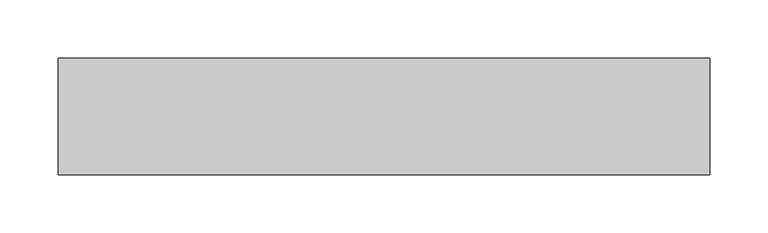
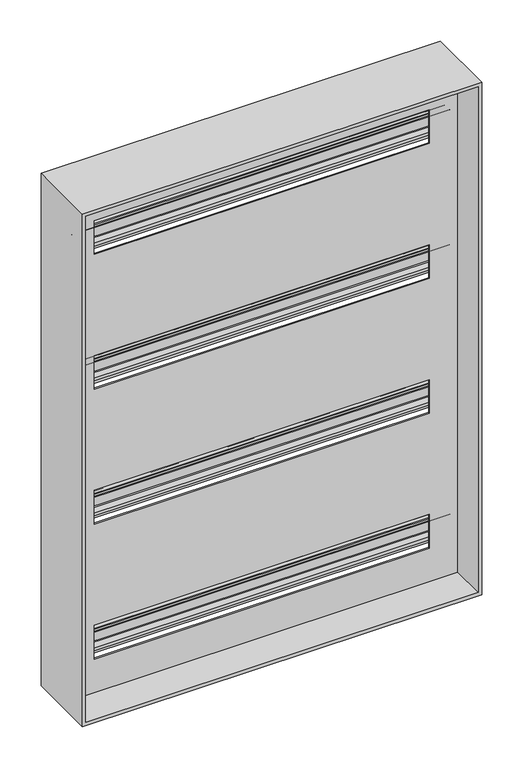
"""IFC4 building model written with IfcOpenShell, lengths in millimetres: electric distribution board geometry, DKC_Панель для модульного оборудования : DKC_Панель для модульного оборудования."""

from ifc_helpers import new_model, si_unit, frame, origin, place, context, project, spatial, polyline, circle_curve, faceted_brep, source, transform, mapped, element, save
from ifc_brep_helpers import plane_surface, cylinder_surface, revolved_surface, advanced_brep


def electric_distribution_board_496b80d3(model_context):
    return source(origin(), model_context, "Body", "SolidModel", [
        advanced_brep(
        [(-265.0, -86.5000007, 1362.0000024), (-265.0, -96.4963965, 1362.0000024), (-265.0, -98.9999996, 1364.4999998), (-265.0, -99.0, 1367.4999982), (-265.0, -97.5000007, 1367.4999982), (-265.0, -97.5000007, 1364.5), (-265.0, -96.4999987, 1363.4999998), (-265.0, -86.4969876, 1363.499998), (-265.0, -83.9999996, 1360.9999998), (-265.0, -83.9999996, 1338.9999994), (-265.0, -86.5039195, 1336.5000024), (-265.0, -96.4999996, 1336.5000024), (-265.0, -97.4999996, 1335.5000004), (-265.0, -97.5000007, 1332.5000018), (-265.0, -99.0, 1332.5000018), (-265.0, -99.0, 1335.4999994), (-265.0, -96.4974135, 1337.999998), (-265.0, -86.4999996, 1337.999998), (-265.0, -85.4999996, 1339.0000001), (-265.0, -85.4999987, 1360.9999998), (265.0, -86.5000007, 1361.9999998), (265.0, -85.4999996, 1360.9999998), (265.0, -85.4999987, 1339.0000001), (265.0, -86.4999996, 1337.9999994), (265.0, -96.4974135, 1337.999998), (265.0, -98.9999996, 1335.4999994), (265.0, -99.0, 1332.5000018), (265.0, -97.5000007, 1332.5000018), (265.0, -97.5000007, 1335.5000004), (265.0, -96.4999996, 1336.4999994), (265.0, -86.5039195, 1336.5000024), (265.0, -83.9999996, 1338.9999994), (265.0, -83.9999996, 1360.9999998), (265.0, -86.4969876, 1363.499998), (265.0, -96.4999987, 1363.499998), (265.0, -97.4999996, 1364.4999998), (265.0, -97.5000007, 1367.4999982), (265.0, -99.0, 1367.4999982), (265.0, -99.0, 1364.4999998), (265.0, -96.4963965, 1362.0000024)],
        [
            (0, 1),
            (1, 2, circle_curve(frame((-265.0, -96.4999996, 1364.4999998), z_axis=(-1.0, 0.0, 0.0), x_axis=(0.0, 0.0, -1.0)), 2.5)),
            (2, 3),
            (3, 4),
            (4, 5),
            (5, 6, circle_curve(frame((-265.0, -96.4999996, 1364.4999998), z_axis=(1.0, 0.0, 0.0), x_axis=(0.0, 0.0, -1.0)), 1.0)),
            (6, 7),
            (7, 8, circle_curve(frame((-265.0, -86.4999996, 1360.9999998), z_axis=(-1.0, 0.0, 0.0), x_axis=(0.0, 0.0, -1.0)), 2.5)),
            (8, 9),
            (9, 10, circle_curve(frame((-265.0, -86.4999996, 1338.9999994), z_axis=(-1.0, 0.0, 0.0), x_axis=(0.0, 0.0, -1.0)), 2.5)),
            (10, 11),
            (11, 12, circle_curve(frame((-265.0, -96.4999996, 1335.4999994), z_axis=(1.0, 0.0, 0.0), x_axis=(0.0, 0.0, -1.0)), 1.0)),
            (12, 13),
            (13, 14),
            (14, 15),
            (15, 16, circle_curve(frame((-265.0, -96.4999996, 1335.4999994), z_axis=(-1.0, 0.0, 0.0), x_axis=(0.0, 0.0, -1.0)), 2.5)),
            (16, 17),
            (17, 18, circle_curve(frame((-265.0, -86.4999996, 1338.9999994), z_axis=(1.0, 0.0, 0.0), x_axis=(0.0, 0.0, -1.0)), 1.0)),
            (18, 19),
            (19, 0, circle_curve(frame((-265.0, -86.4999996, 1360.9999998), z_axis=(1.0, 0.0, 0.0), x_axis=(0.0, 0.0, -1.0)), 1.0)),
            (20, 21, circle_curve(frame((265.0, -86.4999996, 1360.9999998), z_axis=(-1.0, 0.0, 0.0), x_axis=(0.0, 0.0, -1.0)), 1.0)),
            (21, 22),
            (22, 23, circle_curve(frame((265.0, -86.4999996, 1338.9999994), z_axis=(-1.0, 0.0, 0.0), x_axis=(0.0, 0.0, -1.0)), 1.0)),
            (23, 24),
            (24, 25, circle_curve(frame((265.0, -96.4999996, 1335.4999994), z_axis=(1.0, 0.0, 0.0), x_axis=(0.0, 0.0, -1.0)), 2.5)),
            (25, 26),
            (26, 27),
            (27, 28),
            (28, 29, circle_curve(frame((265.0, -96.4999996, 1335.4999994), z_axis=(-1.0, 0.0, 0.0), x_axis=(0.0, 0.0, -1.0)), 1.0)),
            (29, 30),
            (30, 31, circle_curve(frame((265.0, -86.4999996, 1338.9999994), z_axis=(1.0, 0.0, 0.0), x_axis=(0.0, 0.0, -1.0)), 2.5)),
            (31, 32),
            (32, 33, circle_curve(frame((265.0, -86.4999996, 1360.9999998), z_axis=(1.0, 0.0, 0.0), x_axis=(0.0, 0.0, -1.0)), 2.5)),
            (33, 34),
            (34, 35, circle_curve(frame((265.0, -96.4999996, 1364.4999998), z_axis=(-1.0, 0.0, 0.0), x_axis=(0.0, 0.0, -1.0)), 1.0)),
            (35, 36),
            (36, 37),
            (37, 38),
            (38, 39, circle_curve(frame((265.0, -96.4999996, 1364.4999998), z_axis=(1.0, 0.0, 0.0), x_axis=(0.0, 0.0, -1.0)), 2.5)),
            (39, 20),
            (0, 20),
            (39, 1),
            (38, 2),
            (37, 3),
            (36, 4),
            (35, 5),
            (34, 6),
            (33, 7),
            (32, 8),
            (31, 9),
            (30, 10),
            (29, 11),
            (28, 12),
            (27, 13),
            (26, 14),
            (25, 15),
            (24, 16),
            (23, 17),
            (22, 18),
            (21, 19),
        ],
        [
            plane_surface(frame((-265.0, -96.4963965, 1362.0000024), z_axis=(-1.0, 0.0, 0.0), x_axis=(0.0, -1.0, 0.0))),
            plane_surface(frame((265.0, -96.4963965, 1362.0000024), z_axis=(1.0, 0.0, 0.0), x_axis=(0.0, 1.0, 0.0))),
            plane_surface(frame((-265.0, -86.5000007, 1362.0000024), z_axis=(0.0, 0.0, -1.0), x_axis=(1.0, 0.0, 0.0))),
            cylinder_surface(frame((265.0, -96.4999996, 1364.4999998), z_axis=(-1.0, 0.0, 0.0), x_axis=(0.0, 0.0, -1.0)), 2.5),
            plane_surface(frame((-265.0, -99.0, 1364.4999998), z_axis=(0.0, -1.0, 0.0), x_axis=(1.0, 0.0, 0.0))),
            plane_surface(frame((-265.0, -99.0, 1367.4999982), z_axis=(0.0, 0.0, 1.0), x_axis=(1.0, 0.0, 0.0))),
            plane_surface(frame((-265.0, -97.5000007, 1367.4999982), z_axis=(0.0, 1.0, 0.0), x_axis=(1.0, 0.0, 0.0))),
            revolved_surface(polyline([(265.0, -96.4999996, 1363.4999998), (-265.0, -96.4999996, 1363.4999998)]), (265.0, -96.4999996, 1364.4999998), (1.0, 0.0, 0.0)),
            plane_surface(frame((-265.0, -96.4999987, 1363.499998), z_axis=(0.0, 0.0, 1.0), x_axis=(1.0, 0.0, 0.0))),
            cylinder_surface(frame((265.0, -86.4999996, 1360.9999998), z_axis=(-1.0, 0.0, 0.0), x_axis=(0.0, 0.0, -1.0)), 2.5),
            plane_surface(frame((-265.0, -83.9999996, 1360.9999998), z_axis=(0.0, 1.0, 0.0), x_axis=(1.0, 0.0, 0.0))),
            cylinder_surface(frame((265.0, -86.4999996, 1338.9999994), z_axis=(-1.0, 0.0, 0.0), x_axis=(0.0, 0.0, -1.0)), 2.5),
            plane_surface(frame((-265.0, -86.5039195, 1336.5000024), z_axis=(0.0, 0.0, -1.0), x_axis=(1.0, 0.0, 0.0))),
            revolved_surface(polyline([(265.0, -96.4999996, 1334.4999994), (-265.0, -96.4999996, 1334.4999994)]), (265.0, -96.4999996, 1335.4999994), (1.0, 0.0, 0.0)),
            plane_surface(frame((-265.0, -97.5000007, 1335.5000004), z_axis=(0.0, 1.0, 0.0), x_axis=(1.0, 0.0, 0.0))),
            plane_surface(frame((-265.0, -97.5000007, 1332.5000018), z_axis=(0.0, 0.0, -1.0), x_axis=(1.0, 0.0, 0.0))),
            plane_surface(frame((-265.0, -99.0, 1332.5000018), z_axis=(0.0, -1.0, 0.0), x_axis=(1.0, 0.0, 0.0))),
            cylinder_surface(frame((265.0, -96.4999996, 1335.4999994), z_axis=(-1.0, 0.0, 0.0), x_axis=(0.0, 0.0, -1.0)), 2.5),
            plane_surface(frame((-265.0, -96.4974135, 1337.999998), z_axis=(0.0, 0.0, 1.0), x_axis=(1.0, 0.0, 0.0))),
            revolved_surface(polyline([(265.0, -86.4999996, 1337.9999994), (-265.0, -86.4999996, 1337.9999994)]), (265.0, -86.4999996, 1338.9999994), (1.0, 0.0, 0.0)),
            plane_surface(frame((-265.0, -85.4999987, 1339.0000001), z_axis=(0.0, -1.0, 0.0), x_axis=(1.0, 0.0, 0.0))),
            revolved_surface(polyline([(265.0, -86.4999996, 1359.9999998), (-265.0, -86.4999996, 1359.9999998)]), (265.0, -86.4999996, 1360.9999998), (1.0, 0.0, 0.0)),
        ],
        [
            (0, [[1, 2, 3, 4, 5, 6, 7, 8, 9, 10, 11, 12, 13, 14, 15, 16, 17, 18, 19, 20]]),
            (1, [[21, 22, 23, 24, 25, 26, 27, 28, 29, 30, 31, 32, 33, 34, 35, 36, 37, 38, 39, 40]]),
            (2, [[-1, 41, -40, 42]]),
            (3, [[-2, -42, -39, 43]]),
            (4, [[-3, -43, -38, 44]]),
            (5, [[-4, -44, -37, 45]]),
            (6, [[-5, -45, -36, 46]]),
            (7, [[-6, -46, -35, 47]]),
            (8, [[-7, -47, -34, 48]]),
            (9, [[-8, -48, -33, 49]]),
            (10, [[-9, -49, -32, 50]]),
            (11, [[-10, -50, -31, 51]]),
            (12, [[-11, -51, -30, 52]]),
            (13, [[-12, -52, -29, 53]]),
            (14, [[-13, -53, -28, 54]]),
            (15, [[-14, -54, -27, 55]]),
            (16, [[-15, -55, -26, 56]]),
            (17, [[-16, -56, -25, 57]]),
            (18, [[-17, -57, -24, 58]]),
            (19, [[-18, -58, -23, 59]]),
            (20, [[-19, -59, -22, 60]]),
            (21, [[-20, -60, -21, -41]]),
        ],
    ),
        advanced_brep(
        [(-265.0, -86.5000007, 1162.0000024), (-265.0, -96.4963965, 1162.0000024), (-265.0, -98.9999996, 1164.4999998), (-265.0, -99.0, 1167.4999982), (-265.0, -97.5000007, 1167.4999982), (-265.0, -97.5000007, 1164.5), (-265.0, -96.4999987, 1163.4999998), (-265.0, -86.4969876, 1163.499998), (-265.0, -83.9999996, 1160.9999998), (-265.0, -83.9999996, 1138.9999994), (-265.0, -86.5039195, 1136.5000024), (-265.0, -96.4999996, 1136.5000024), (-265.0, -97.4999996, 1135.5000004), (-265.0, -97.5000007, 1132.5000018), (-265.0, -99.0, 1132.5000018), (-265.0, -99.0, 1135.4999994), (-265.0, -96.4974135, 1137.999998), (-265.0, -86.4999996, 1137.999998), (-265.0, -85.4999996, 1139.0000001), (-265.0, -85.4999987, 1160.9999998), (265.0, -86.5000007, 1161.9999998), (265.0, -85.4999996, 1160.9999998), (265.0, -85.4999987, 1139.0000001), (265.0, -86.4999996, 1137.9999994), (265.0, -96.4974135, 1137.999998), (265.0, -98.9999996, 1135.4999994), (265.0, -99.0, 1132.5000018), (265.0, -97.5000007, 1132.5000018), (265.0, -97.5000007, 1135.5000004), (265.0, -96.4999996, 1136.4999994), (265.0, -86.5039195, 1136.5000024), (265.0, -83.9999996, 1138.9999994), (265.0, -83.9999996, 1160.9999998), (265.0, -86.4969876, 1163.499998), (265.0, -96.4999987, 1163.499998), (265.0, -97.4999996, 1164.4999998), (265.0, -97.5000007, 1167.4999982), (265.0, -99.0, 1167.4999982), (265.0, -99.0, 1164.4999998), (265.0, -96.4963965, 1162.0000024)],
        [
            (0, 1),
            (1, 2, circle_curve(frame((-265.0, -96.4999996, 1164.4999998), z_axis=(-1.0, 0.0, 0.0), x_axis=(0.0, 0.0, -1.0)), 2.5)),
            (2, 3),
            (3, 4),
            (4, 5),
            (5, 6, circle_curve(frame((-265.0, -96.4999996, 1164.4999998), z_axis=(1.0, 0.0, 0.0), x_axis=(0.0, 0.0, -1.0)), 1.0)),
            (6, 7),
            (7, 8, circle_curve(frame((-265.0, -86.4999996, 1160.9999998), z_axis=(-1.0, 0.0, 0.0), x_axis=(0.0, 0.0, -1.0)), 2.5)),
            (8, 9),
            (9, 10, circle_curve(frame((-265.0, -86.4999996, 1138.9999994), z_axis=(-1.0, 0.0, 0.0), x_axis=(0.0, 0.0, -1.0)), 2.5)),
            (10, 11),
            (11, 12, circle_curve(frame((-265.0, -96.4999996, 1135.4999994), z_axis=(1.0, 0.0, 0.0), x_axis=(0.0, 0.0, -1.0)), 1.0)),
            (12, 13),
            (13, 14),
            (14, 15),
            (15, 16, circle_curve(frame((-265.0, -96.4999996, 1135.4999994), z_axis=(-1.0, 0.0, 0.0), x_axis=(0.0, 0.0, -1.0)), 2.5)),
            (16, 17),
            (17, 18, circle_curve(frame((-265.0, -86.4999996, 1138.9999994), z_axis=(1.0, 0.0, 0.0), x_axis=(0.0, 0.0, -1.0)), 1.0)),
            (18, 19),
            (19, 0, circle_curve(frame((-265.0, -86.4999996, 1160.9999998), z_axis=(1.0, 0.0, 0.0), x_axis=(0.0, 0.0, -1.0)), 1.0)),
            (20, 21, circle_curve(frame((265.0, -86.4999996, 1160.9999998), z_axis=(-1.0, 0.0, 0.0), x_axis=(0.0, 0.0, -1.0)), 1.0)),
            (21, 22),
            (22, 23, circle_curve(frame((265.0, -86.4999996, 1138.9999994), z_axis=(-1.0, 0.0, 0.0), x_axis=(0.0, 0.0, -1.0)), 1.0)),
            (23, 24),
            (24, 25, circle_curve(frame((265.0, -96.4999996, 1135.4999994), z_axis=(1.0, 0.0, 0.0), x_axis=(0.0, 0.0, -1.0)), 2.5)),
            (25, 26),
            (26, 27),
            (27, 28),
            (28, 29, circle_curve(frame((265.0, -96.4999996, 1135.4999994), z_axis=(-1.0, 0.0, 0.0), x_axis=(0.0, 0.0, -1.0)), 1.0)),
            (29, 30),
            (30, 31, circle_curve(frame((265.0, -86.4999996, 1138.9999994), z_axis=(1.0, 0.0, 0.0), x_axis=(0.0, 0.0, -1.0)), 2.5)),
            (31, 32),
            (32, 33, circle_curve(frame((265.0, -86.4999996, 1160.9999998), z_axis=(1.0, 0.0, 0.0), x_axis=(0.0, 0.0, -1.0)), 2.5)),
            (33, 34),
            (34, 35, circle_curve(frame((265.0, -96.4999996, 1164.4999998), z_axis=(-1.0, 0.0, 0.0), x_axis=(0.0, 0.0, -1.0)), 1.0)),
            (35, 36),
            (36, 37),
            (37, 38),
            (38, 39, circle_curve(frame((265.0, -96.4999996, 1164.4999998), z_axis=(1.0, 0.0, 0.0), x_axis=(0.0, 0.0, -1.0)), 2.5)),
            (39, 20),
            (0, 20),
            (39, 1),
            (38, 2),
            (37, 3),
            (36, 4),
            (35, 5),
            (34, 6),
            (33, 7),
            (32, 8),
            (31, 9),
            (30, 10),
            (29, 11),
            (28, 12),
            (27, 13),
            (26, 14),
            (25, 15),
            (24, 16),
            (23, 17),
            (22, 18),
            (21, 19),
        ],
        [
            plane_surface(frame((-265.0, -96.4963965, 1162.0000024), z_axis=(-1.0, 0.0, 0.0), x_axis=(0.0, -1.0, 0.0))),
            plane_surface(frame((265.0, -96.4963965, 1162.0000024), z_axis=(1.0, 0.0, 0.0), x_axis=(0.0, 1.0, 0.0))),
            plane_surface(frame((-265.0, -86.5000007, 1162.0000024), z_axis=(0.0, 0.0, -1.0), x_axis=(1.0, 0.0, 0.0))),
            cylinder_surface(frame((265.0, -96.4999996, 1164.4999998), z_axis=(-1.0, 0.0, 0.0), x_axis=(0.0, 0.0, -1.0)), 2.5),
            plane_surface(frame((-265.0, -99.0, 1164.4999998), z_axis=(0.0, -1.0, 0.0), x_axis=(1.0, 0.0, 0.0))),
            plane_surface(frame((-265.0, -99.0, 1167.4999982), z_axis=(0.0, 0.0, 1.0), x_axis=(1.0, 0.0, 0.0))),
            plane_surface(frame((-265.0, -97.5000007, 1167.4999982), z_axis=(0.0, 1.0, 0.0), x_axis=(1.0, 0.0, 0.0))),
            revolved_surface(polyline([(265.0, -96.4999996, 1163.4999998), (-265.0, -96.4999996, 1163.4999998)]), (265.0, -96.4999996, 1164.4999998), (1.0, 0.0, 0.0)),
            plane_surface(frame((-265.0, -96.4999987, 1163.499998), z_axis=(0.0, 0.0, 1.0), x_axis=(1.0, 0.0, 0.0))),
            cylinder_surface(frame((265.0, -86.4999996, 1160.9999998), z_axis=(-1.0, 0.0, 0.0), x_axis=(0.0, 0.0, -1.0)), 2.5),
            plane_surface(frame((-265.0, -83.9999996, 1160.9999998), z_axis=(0.0, 1.0, 0.0), x_axis=(1.0, 0.0, 0.0))),
            cylinder_surface(frame((265.0, -86.4999996, 1138.9999994), z_axis=(-1.0, 0.0, 0.0), x_axis=(0.0, 0.0, -1.0)), 2.5),
            plane_surface(frame((-265.0, -86.5039195, 1136.5000024), z_axis=(0.0, 0.0, -1.0), x_axis=(1.0, 0.0, 0.0))),
            revolved_surface(polyline([(265.0, -96.4999996, 1134.4999994), (-265.0, -96.4999996, 1134.4999994)]), (265.0, -96.4999996, 1135.4999994), (1.0, 0.0, 0.0)),
            plane_surface(frame((-265.0, -97.5000007, 1135.5000004), z_axis=(0.0, 1.0, 0.0), x_axis=(1.0, 0.0, 0.0))),
            plane_surface(frame((-265.0, -97.5000007, 1132.5000018), z_axis=(0.0, 0.0, -1.0), x_axis=(1.0, 0.0, 0.0))),
            plane_surface(frame((-265.0, -99.0, 1132.5000018), z_axis=(0.0, -1.0, 0.0), x_axis=(1.0, 0.0, 0.0))),
            cylinder_surface(frame((265.0, -96.4999996, 1135.4999994), z_axis=(-1.0, 0.0, 0.0), x_axis=(0.0, 0.0, -1.0)), 2.5),
            plane_surface(frame((-265.0, -96.4974135, 1137.999998), z_axis=(0.0, 0.0, 1.0), x_axis=(1.0, 0.0, 0.0))),
            revolved_surface(polyline([(265.0, -86.4999996, 1137.9999994), (-265.0, -86.4999996, 1137.9999994)]), (265.0, -86.4999996, 1138.9999994), (1.0, 0.0, 0.0)),
            plane_surface(frame((-265.0, -85.4999987, 1139.0000001), z_axis=(0.0, -1.0, 0.0), x_axis=(1.0, 0.0, 0.0))),
            revolved_surface(polyline([(265.0, -86.4999996, 1159.9999998), (-265.0, -86.4999996, 1159.9999998)]), (265.0, -86.4999996, 1160.9999998), (1.0, 0.0, 0.0)),
        ],
        [
            (0, [[1, 2, 3, 4, 5, 6, 7, 8, 9, 10, 11, 12, 13, 14, 15, 16, 17, 18, 19, 20]]),
            (1, [[21, 22, 23, 24, 25, 26, 27, 28, 29, 30, 31, 32, 33, 34, 35, 36, 37, 38, 39, 40]]),
            (2, [[-1, 41, -40, 42]]),
            (3, [[-2, -42, -39, 43]]),
            (4, [[-3, -43, -38, 44]]),
            (5, [[-4, -44, -37, 45]]),
            (6, [[-5, -45, -36, 46]]),
            (7, [[-6, -46, -35, 47]]),
            (8, [[-7, -47, -34, 48]]),
            (9, [[-8, -48, -33, 49]]),
            (10, [[-9, -49, -32, 50]]),
            (11, [[-10, -50, -31, 51]]),
            (12, [[-11, -51, -30, 52]]),
            (13, [[-12, -52, -29, 53]]),
            (14, [[-13, -53, -28, 54]]),
            (15, [[-14, -54, -27, 55]]),
            (16, [[-15, -55, -26, 56]]),
            (17, [[-16, -56, -25, 57]]),
            (18, [[-17, -57, -24, 58]]),
            (19, [[-18, -58, -23, 59]]),
            (20, [[-19, -59, -22, 60]]),
            (21, [[-20, -60, -21, -41]]),
        ],
    ),
        advanced_brep(
        [(-265.0, -86.5000007, 962.0000024), (-265.0, -96.4963965, 962.0000024), (-265.0, -98.9999996, 964.4999998), (-265.0, -99.0, 967.4999982), (-265.0, -97.5000007, 967.4999982), (-265.0, -97.5000007, 964.5), (-265.0, -96.4999987, 963.4999998), (-265.0, -86.4969876, 963.499998), (-265.0, -83.9999996, 960.9999998), (-265.0, -83.9999996, 938.9999994), (-265.0, -86.5039195, 936.5000024), (-265.0, -96.4999996, 936.5000024), (-265.0, -97.4999996, 935.5000004), (-265.0, -97.5000007, 932.5000018), (-265.0, -99.0, 932.5000018), (-265.0, -99.0, 935.4999994), (-265.0, -96.4974135, 937.999998), (-265.0, -86.4999996, 937.999998), (-265.0, -85.4999996, 939.0000001), (-265.0, -85.4999987, 960.9999998), (265.0, -86.5000007, 961.9999998), (265.0, -85.4999996, 960.9999998), (265.0, -85.4999987, 939.0000001), (265.0, -86.4999996, 937.9999994), (265.0, -96.4974135, 937.999998), (265.0, -98.9999996, 935.4999994), (265.0, -99.0, 932.5000018), (265.0, -97.5000007, 932.5000018), (265.0, -97.5000007, 935.5000004), (265.0, -96.4999996, 936.4999994), (265.0, -86.5039195, 936.5000024), (265.0, -83.9999996, 938.9999994), (265.0, -83.9999996, 960.9999998), (265.0, -86.4969876, 963.499998), (265.0, -96.4999987, 963.499998), (265.0, -97.4999996, 964.4999998), (265.0, -97.5000007, 967.4999982), (265.0, -99.0, 967.4999982), (265.0, -99.0, 964.4999998), (265.0, -96.4963965, 962.0000024)],
        [
            (0, 1),
            (1, 2, circle_curve(frame((-265.0, -96.4999996, 964.4999998), z_axis=(-1.0, 0.0, 0.0), x_axis=(0.0, 0.0, -1.0)), 2.5)),
            (2, 3),
            (3, 4),
            (4, 5),
            (5, 6, circle_curve(frame((-265.0, -96.4999996, 964.4999998), z_axis=(1.0, 0.0, 0.0), x_axis=(0.0, 0.0, -1.0)), 1.0)),
            (6, 7),
            (7, 8, circle_curve(frame((-265.0, -86.4999996, 960.9999998), z_axis=(-1.0, 0.0, 0.0), x_axis=(0.0, 0.0, -1.0)), 2.5)),
            (8, 9),
            (9, 10, circle_curve(frame((-265.0, -86.4999996, 938.9999994), z_axis=(-1.0, 0.0, 0.0), x_axis=(0.0, 0.0, -1.0)), 2.5)),
            (10, 11),
            (11, 12, circle_curve(frame((-265.0, -96.4999996, 935.4999994), z_axis=(1.0, 0.0, 0.0), x_axis=(0.0, 0.0, -1.0)), 1.0)),
            (12, 13),
            (13, 14),
            (14, 15),
            (15, 16, circle_curve(frame((-265.0, -96.4999996, 935.4999994), z_axis=(-1.0, 0.0, 0.0), x_axis=(0.0, 0.0, -1.0)), 2.5)),
            (16, 17),
            (17, 18, circle_curve(frame((-265.0, -86.4999996, 938.9999994), z_axis=(1.0, 0.0, 0.0), x_axis=(0.0, 0.0, -1.0)), 1.0)),
            (18, 19),
            (19, 0, circle_curve(frame((-265.0, -86.4999996, 960.9999998), z_axis=(1.0, 0.0, 0.0), x_axis=(0.0, 0.0, -1.0)), 1.0)),
            (20, 21, circle_curve(frame((265.0, -86.4999996, 960.9999998), z_axis=(-1.0, 0.0, 0.0), x_axis=(0.0, 0.0, -1.0)), 1.0)),
            (21, 22),
            (22, 23, circle_curve(frame((265.0, -86.4999996, 938.9999994), z_axis=(-1.0, 0.0, 0.0), x_axis=(0.0, 0.0, -1.0)), 1.0)),
            (23, 24),
            (24, 25, circle_curve(frame((265.0, -96.4999996, 935.4999994), z_axis=(1.0, 0.0, 0.0), x_axis=(0.0, 0.0, -1.0)), 2.5)),
            (25, 26),
            (26, 27),
            (27, 28),
            (28, 29, circle_curve(frame((265.0, -96.4999996, 935.4999994), z_axis=(-1.0, 0.0, 0.0), x_axis=(0.0, 0.0, -1.0)), 1.0)),
            (29, 30),
            (30, 31, circle_curve(frame((265.0, -86.4999996, 938.9999994), z_axis=(1.0, 0.0, 0.0), x_axis=(0.0, 0.0, -1.0)), 2.5)),
            (31, 32),
            (32, 33, circle_curve(frame((265.0, -86.4999996, 960.9999998), z_axis=(1.0, 0.0, 0.0), x_axis=(0.0, 0.0, -1.0)), 2.5)),
            (33, 34),
            (34, 35, circle_curve(frame((265.0, -96.4999996, 964.4999998), z_axis=(-1.0, 0.0, 0.0), x_axis=(0.0, 0.0, -1.0)), 1.0)),
            (35, 36),
            (36, 37),
            (37, 38),
            (38, 39, circle_curve(frame((265.0, -96.4999996, 964.4999998), z_axis=(1.0, 0.0, 0.0), x_axis=(0.0, 0.0, -1.0)), 2.5)),
            (39, 20),
            (0, 20),
            (39, 1),
            (38, 2),
            (37, 3),
            (36, 4),
            (35, 5),
            (34, 6),
            (33, 7),
            (32, 8),
            (31, 9),
            (30, 10),
            (29, 11),
            (28, 12),
            (27, 13),
            (26, 14),
            (25, 15),
            (24, 16),
            (23, 17),
            (22, 18),
            (21, 19),
        ],
        [
            plane_surface(frame((-265.0, -96.4963965, 962.0000024), z_axis=(-1.0, 0.0, 0.0), x_axis=(0.0, -1.0, 0.0))),
            plane_surface(frame((265.0, -96.4963965, 962.0000024), z_axis=(1.0, 0.0, 0.0), x_axis=(0.0, 1.0, 0.0))),
            plane_surface(frame((-265.0, -86.5000007, 962.0000024), z_axis=(0.0, 0.0, -1.0), x_axis=(1.0, 0.0, 0.0))),
            cylinder_surface(frame((265.0, -96.4999996, 964.4999998), z_axis=(-1.0, 0.0, 0.0), x_axis=(0.0, 0.0, -1.0)), 2.5),
            plane_surface(frame((-265.0, -99.0, 964.4999998), z_axis=(0.0, -1.0, 0.0), x_axis=(1.0, 0.0, 0.0))),
            plane_surface(frame((-265.0, -99.0, 967.4999982), z_axis=(0.0, 0.0, 1.0), x_axis=(1.0, 0.0, 0.0))),
            plane_surface(frame((-265.0, -97.5000007, 967.4999982), z_axis=(0.0, 1.0, 0.0), x_axis=(1.0, 0.0, 0.0))),
            revolved_surface(polyline([(265.0, -96.4999996, 963.4999998), (-265.0, -96.4999996, 963.4999998)]), (265.0, -96.4999996, 964.4999998), (1.0, 0.0, 0.0)),
            plane_surface(frame((-265.0, -96.4999987, 963.499998), z_axis=(0.0, 0.0, 1.0), x_axis=(1.0, 0.0, 0.0))),
            cylinder_surface(frame((265.0, -86.4999996, 960.9999998), z_axis=(-1.0, 0.0, 0.0), x_axis=(0.0, 0.0, -1.0)), 2.5),
            plane_surface(frame((-265.0, -83.9999996, 960.9999998), z_axis=(0.0, 1.0, 0.0), x_axis=(1.0, 0.0, 0.0))),
            cylinder_surface(frame((265.0, -86.4999996, 938.9999994), z_axis=(-1.0, 0.0, 0.0), x_axis=(0.0, 0.0, -1.0)), 2.5),
            plane_surface(frame((-265.0, -86.5039195, 936.5000024), z_axis=(0.0, 0.0, -1.0), x_axis=(1.0, 0.0, 0.0))),
            revolved_surface(polyline([(265.0, -96.4999996, 934.4999994), (-265.0, -96.4999996, 934.4999994)]), (265.0, -96.4999996, 935.4999994), (1.0, 0.0, 0.0)),
            plane_surface(frame((-265.0, -97.5000007, 935.5000004), z_axis=(0.0, 1.0, 0.0), x_axis=(1.0, 0.0, 0.0))),
            plane_surface(frame((-265.0, -97.5000007, 932.5000018), z_axis=(0.0, 0.0, -1.0), x_axis=(1.0, 0.0, 0.0))),
            plane_surface(frame((-265.0, -99.0, 932.5000018), z_axis=(0.0, -1.0, 0.0), x_axis=(1.0, 0.0, 0.0))),
            cylinder_surface(frame((265.0, -96.4999996, 935.4999994), z_axis=(-1.0, 0.0, 0.0), x_axis=(0.0, 0.0, -1.0)), 2.5),
            plane_surface(frame((-265.0, -96.4974135, 937.999998), z_axis=(0.0, 0.0, 1.0), x_axis=(1.0, 0.0, 0.0))),
            revolved_surface(polyline([(265.0, -86.4999996, 937.9999994), (-265.0, -86.4999996, 937.9999994)]), (265.0, -86.4999996, 938.9999994), (1.0, 0.0, 0.0)),
            plane_surface(frame((-265.0, -85.4999987, 939.0000001), z_axis=(0.0, -1.0, 0.0), x_axis=(1.0, 0.0, 0.0))),
            revolved_surface(polyline([(265.0, -86.4999996, 959.9999998), (-265.0, -86.4999996, 959.9999998)]), (265.0, -86.4999996, 960.9999998), (1.0, 0.0, 0.0)),
        ],
        [
            (0, [[1, 2, 3, 4, 5, 6, 7, 8, 9, 10, 11, 12, 13, 14, 15, 16, 17, 18, 19, 20]]),
            (1, [[21, 22, 23, 24, 25, 26, 27, 28, 29, 30, 31, 32, 33, 34, 35, 36, 37, 38, 39, 40]]),
            (2, [[-1, 41, -40, 42]]),
            (3, [[-2, -42, -39, 43]]),
            (4, [[-3, -43, -38, 44]]),
            (5, [[-4, -44, -37, 45]]),
            (6, [[-5, -45, -36, 46]]),
            (7, [[-6, -46, -35, 47]]),
            (8, [[-7, -47, -34, 48]]),
            (9, [[-8, -48, -33, 49]]),
            (10, [[-9, -49, -32, 50]]),
            (11, [[-10, -50, -31, 51]]),
            (12, [[-11, -51, -30, 52]]),
            (13, [[-12, -52, -29, 53]]),
            (14, [[-13, -53, -28, 54]]),
            (15, [[-14, -54, -27, 55]]),
            (16, [[-15, -55, -26, 56]]),
            (17, [[-16, -56, -25, 57]]),
            (18, [[-17, -57, -24, 58]]),
            (19, [[-18, -58, -23, 59]]),
            (20, [[-19, -59, -22, 60]]),
            (21, [[-20, -60, -21, -41]]),
        ],
    ),
        advanced_brep(
        [(-265.0, -86.5000007, 762.0000024), (-265.0, -96.4963965, 762.0000024), (-265.0, -98.9999996, 764.4999998), (-265.0, -99.0, 767.4999982), (-265.0, -97.5000007, 767.4999982), (-265.0, -97.5000007, 764.5), (-265.0, -96.4999987, 763.4999998), (-265.0, -86.4969876, 763.499998), (-265.0, -83.9999996, 760.9999998), (-265.0, -83.9999996, 738.9999994), (-265.0, -86.5039195, 736.5000024), (-265.0, -96.4999996, 736.5000024), (-265.0, -97.4999996, 735.5000004), (-265.0, -97.5000007, 732.5000018), (-265.0, -99.0, 732.5000018), (-265.0, -99.0, 735.4999994), (-265.0, -96.4974135, 737.999998), (-265.0, -86.4999996, 737.999998), (-265.0, -85.4999996, 739.0000001), (-265.0, -85.4999987, 760.9999998), (265.0, -86.5000007, 761.9999998), (265.0, -85.4999996, 760.9999998), (265.0, -85.4999987, 739.0000001), (265.0, -86.4999996, 737.9999994), (265.0, -96.4974135, 737.999998), (265.0, -98.9999996, 735.4999994), (265.0, -99.0, 732.5000018), (265.0, -97.5000007, 732.5000018), (265.0, -97.5000007, 735.5000004), (265.0, -96.4999996, 736.4999994), (265.0, -86.5039195, 736.5000024), (265.0, -83.9999996, 738.9999994), (265.0, -83.9999996, 760.9999998), (265.0, -86.4969876, 763.499998), (265.0, -96.4999987, 763.499998), (265.0, -97.4999996, 764.4999998), (265.0, -97.5000007, 767.4999982), (265.0, -99.0, 767.4999982), (265.0, -99.0, 764.4999998), (265.0, -96.4963965, 762.0000024)],
        [
            (0, 1),
            (1, 2, circle_curve(frame((-265.0, -96.4999996, 764.4999998), z_axis=(-1.0, 0.0, 0.0), x_axis=(0.0, 0.0, -1.0)), 2.5)),
            (2, 3),
            (3, 4),
            (4, 5),
            (5, 6, circle_curve(frame((-265.0, -96.4999996, 764.4999998), z_axis=(1.0, 0.0, 0.0), x_axis=(0.0, 0.0, -1.0)), 1.0)),
            (6, 7),
            (7, 8, circle_curve(frame((-265.0, -86.4999996, 760.9999998), z_axis=(-1.0, 0.0, 0.0), x_axis=(0.0, 0.0, -1.0)), 2.5)),
            (8, 9),
            (9, 10, circle_curve(frame((-265.0, -86.4999996, 738.9999994), z_axis=(-1.0, 0.0, 0.0), x_axis=(0.0, 0.0, -1.0)), 2.5)),
            (10, 11),
            (11, 12, circle_curve(frame((-265.0, -96.4999996, 735.4999994), z_axis=(1.0, 0.0, 0.0), x_axis=(0.0, 0.0, -1.0)), 1.0)),
            (12, 13),
            (13, 14),
            (14, 15),
            (15, 16, circle_curve(frame((-265.0, -96.4999996, 735.4999994), z_axis=(-1.0, 0.0, 0.0), x_axis=(0.0, 0.0, -1.0)), 2.5)),
            (16, 17),
            (17, 18, circle_curve(frame((-265.0, -86.4999996, 738.9999994), z_axis=(1.0, 0.0, 0.0), x_axis=(0.0, 0.0, -1.0)), 1.0)),
            (18, 19),
            (19, 0, circle_curve(frame((-265.0, -86.4999996, 760.9999998), z_axis=(1.0, 0.0, 0.0), x_axis=(0.0, 0.0, -1.0)), 1.0)),
            (20, 21, circle_curve(frame((265.0, -86.4999996, 760.9999998), z_axis=(-1.0, 0.0, 0.0), x_axis=(0.0, 0.0, -1.0)), 1.0)),
            (21, 22),
            (22, 23, circle_curve(frame((265.0, -86.4999996, 738.9999994), z_axis=(-1.0, 0.0, 0.0), x_axis=(0.0, 0.0, -1.0)), 1.0)),
            (23, 24),
            (24, 25, circle_curve(frame((265.0, -96.4999996, 735.4999994), z_axis=(1.0, 0.0, 0.0), x_axis=(0.0, 0.0, -1.0)), 2.5)),
            (25, 26),
            (26, 27),
            (27, 28),
            (28, 29, circle_curve(frame((265.0, -96.4999996, 735.4999994), z_axis=(-1.0, 0.0, 0.0), x_axis=(0.0, 0.0, -1.0)), 1.0)),
            (29, 30),
            (30, 31, circle_curve(frame((265.0, -86.4999996, 738.9999994), z_axis=(1.0, 0.0, 0.0), x_axis=(0.0, 0.0, -1.0)), 2.5)),
            (31, 32),
            (32, 33, circle_curve(frame((265.0, -86.4999996, 760.9999998), z_axis=(1.0, 0.0, 0.0), x_axis=(0.0, 0.0, -1.0)), 2.5)),
            (33, 34),
            (34, 35, circle_curve(frame((265.0, -96.4999996, 764.4999998), z_axis=(-1.0, 0.0, 0.0), x_axis=(0.0, 0.0, -1.0)), 1.0)),
            (35, 36),
            (36, 37),
            (37, 38),
            (38, 39, circle_curve(frame((265.0, -96.4999996, 764.4999998), z_axis=(1.0, 0.0, 0.0), x_axis=(0.0, 0.0, -1.0)), 2.5)),
            (39, 20),
            (0, 20),
            (39, 1),
            (38, 2),
            (37, 3),
            (36, 4),
            (35, 5),
            (34, 6),
            (33, 7),
            (32, 8),
            (31, 9),
            (30, 10),
            (29, 11),
            (28, 12),
            (27, 13),
            (26, 14),
            (25, 15),
            (24, 16),
            (23, 17),
            (22, 18),
            (21, 19),
        ],
        [
            plane_surface(frame((-265.0, -96.4963965, 762.0000024), z_axis=(-1.0, 0.0, 0.0), x_axis=(0.0, -1.0, 0.0))),
            plane_surface(frame((265.0, -96.4963965, 762.0000024), z_axis=(1.0, 0.0, 0.0), x_axis=(0.0, 1.0, 0.0))),
            plane_surface(frame((-265.0, -86.5000007, 762.0000024), z_axis=(0.0, 0.0, -1.0), x_axis=(1.0, 0.0, 0.0))),
            cylinder_surface(frame((265.0, -96.4999996, 764.4999998), z_axis=(-1.0, 0.0, 0.0), x_axis=(0.0, 0.0, -1.0)), 2.5),
            plane_surface(frame((-265.0, -99.0, 764.4999998), z_axis=(0.0, -1.0, 0.0), x_axis=(1.0, 0.0, 0.0))),
            plane_surface(frame((-265.0, -99.0, 767.4999982), z_axis=(0.0, 0.0, 1.0), x_axis=(1.0, 0.0, 0.0))),
            plane_surface(frame((-265.0, -97.5000007, 767.4999982), z_axis=(0.0, 1.0, 0.0), x_axis=(1.0, 0.0, 0.0))),
            revolved_surface(polyline([(265.0, -96.4999996, 763.4999998), (-265.0, -96.4999996, 763.4999998)]), (265.0, -96.4999996, 764.4999998), (1.0, 0.0, 0.0)),
            plane_surface(frame((-265.0, -96.4999987, 763.499998), z_axis=(0.0, 0.0, 1.0), x_axis=(1.0, 0.0, 0.0))),
            cylinder_surface(frame((265.0, -86.4999996, 760.9999998), z_axis=(-1.0, 0.0, 0.0), x_axis=(0.0, 0.0, -1.0)), 2.5),
            plane_surface(frame((-265.0, -83.9999996, 760.9999998), z_axis=(0.0, 1.0, 0.0), x_axis=(1.0, 0.0, 0.0))),
            cylinder_surface(frame((265.0, -86.4999996, 738.9999994), z_axis=(-1.0, 0.0, 0.0), x_axis=(0.0, 0.0, -1.0)), 2.5),
            plane_surface(frame((-265.0, -86.5039195, 736.5000024), z_axis=(0.0, 0.0, -1.0), x_axis=(1.0, 0.0, 0.0))),
            revolved_surface(polyline([(265.0, -96.4999996, 734.4999994), (-265.0, -96.4999996, 734.4999994)]), (265.0, -96.4999996, 735.4999994), (1.0, 0.0, 0.0)),
            plane_surface(frame((-265.0, -97.5000007, 735.5000004), z_axis=(0.0, 1.0, 0.0), x_axis=(1.0, 0.0, 0.0))),
            plane_surface(frame((-265.0, -97.5000007, 732.5000018), z_axis=(0.0, 0.0, -1.0), x_axis=(1.0, 0.0, 0.0))),
            plane_surface(frame((-265.0, -99.0, 732.5000018), z_axis=(0.0, -1.0, 0.0), x_axis=(1.0, 0.0, 0.0))),
            cylinder_surface(frame((265.0, -96.4999996, 735.4999994), z_axis=(-1.0, 0.0, 0.0), x_axis=(0.0, 0.0, -1.0)), 2.5),
            plane_surface(frame((-265.0, -96.4974135, 737.999998), z_axis=(0.0, 0.0, 1.0), x_axis=(1.0, 0.0, 0.0))),
            revolved_surface(polyline([(265.0, -86.4999996, 737.9999994), (-265.0, -86.4999996, 737.9999994)]), (265.0, -86.4999996, 738.9999994), (1.0, 0.0, 0.0)),
            plane_surface(frame((-265.0, -85.4999987, 739.0000001), z_axis=(0.0, -1.0, 0.0), x_axis=(1.0, 0.0, 0.0))),
            revolved_surface(polyline([(265.0, -86.4999996, 759.9999998), (-265.0, -86.4999996, 759.9999998)]), (265.0, -86.4999996, 760.9999998), (1.0, 0.0, 0.0)),
        ],
        [
            (0, [[1, 2, 3, 4, 5, 6, 7, 8, 9, 10, 11, 12, 13, 14, 15, 16, 17, 18, 19, 20]]),
            (1, [[21, 22, 23, 24, 25, 26, 27, 28, 29, 30, 31, 32, 33, 34, 35, 36, 37, 38, 39, 40]]),
            (2, [[-1, 41, -40, 42]]),
            (3, [[-2, -42, -39, 43]]),
            (4, [[-3, -43, -38, 44]]),
            (5, [[-4, -44, -37, 45]]),
            (6, [[-5, -45, -36, 46]]),
            (7, [[-6, -46, -35, 47]]),
            (8, [[-7, -47, -34, 48]]),
            (9, [[-8, -48, -33, 49]]),
            (10, [[-9, -49, -32, 50]]),
            (11, [[-10, -50, -31, 51]]),
            (12, [[-11, -51, -30, 52]]),
            (13, [[-12, -52, -29, 53]]),
            (14, [[-13, -53, -28, 54]]),
            (15, [[-14, -54, -27, 55]]),
            (16, [[-15, -55, -26, 56]]),
            (17, [[-16, -56, -25, 57]]),
            (18, [[-17, -57, -24, 58]]),
            (19, [[-18, -58, -23, 59]]),
            (20, [[-19, -59, -22, 60]]),
            (21, [[-20, -60, -21, -41]]),
        ],
    ),
        faceted_brep([(280.0, -150.0, 1430.0), (-280.0, -150.0, 1430.0), (-280.0, -150.0, 670.0), (280.0, -150.0, 670.0), (-275.0, -150.0, 675.0), (-275.0, -150.0, 1425.0), (275.0, -150.0, 1425.0), (275.0, -150.0, 675.0), (280.0, -50.0, 1430.0), (280.0, -50.0, 670.0), (-280.0, -50.0, 670.0), (-280.0, -50.0, 1430.0), (-275.0, -50.0, 675.0), (275.0, -50.0, 675.0), (275.0, -50.0, 1425.0), (-275.0, -50.0, 1425.0), (-275.0, -101.0, 675.0), (-275.0, -101.0, 1425.0), (-275.0, -99.0, 1425.0), (-275.0, -99.0, 675.0), (275.0, -101.0, 1425.0), (275.0, -99.0, 1425.0), (275.0, -101.0, 675.0), (275.0, -99.0, 675.0), (235.0, -99.0, 925.0), (235.0, -99.0, 975.0), (-235.0, -99.0, 975.0), (-235.0, -99.0, 925.0), (235.0, -99.0, 1125.0), (235.0, -99.0, 1175.0), (-235.0, -99.0, 1175.0), (-235.0, -99.0, 1125.0), (235.0, -99.0, 725.0), (235.0, -99.0, 775.0), (-235.0, -99.0, 775.0), (-235.0, -99.0, 725.0), (235.0, -99.0, 1325.0), (235.0, -99.0, 1375.0), (-235.0, -99.0, 1375.0), (-235.0, -99.0, 1325.0), (235.0, -101.0, 975.0), (235.0, -101.0, 925.0), (-235.0, -101.0, 925.0), (-235.0, -101.0, 975.0), (235.0, -101.0, 1175.0), (235.0, -101.0, 1125.0), (-235.0, -101.0, 1125.0), (-235.0, -101.0, 1175.0), (235.0, -101.0, 775.0), (235.0, -101.0, 725.0), (-235.0, -101.0, 725.0), (-235.0, -101.0, 775.0), (235.0, -101.0, 1375.0), (235.0, -101.0, 1325.0), (-235.0, -101.0, 1325.0), (-235.0, -101.0, 1375.0)], [[[0, 1, 2, 3], [4, 5, 6, 7]], [[8, 9, 10, 11], [12, 13, 14, 15]], [[5, 4, 16, 17]], [[12, 15, 18, 19]], [[6, 5, 17, 20]], [[15, 14, 21, 18]], [[7, 6, 20, 22]], [[14, 13, 23, 21]], [[4, 7, 22, 16]], [[13, 12, 19, 23]], [[19, 18, 21, 23], [24, 25, 26, 27], [28, 29, 30, 31], [32, 33, 34, 35], [36, 37, 38, 39]], [[17, 16, 22, 20], [40, 41, 42, 43], [44, 45, 46, 47], [48, 49, 50, 51], [52, 53, 54, 55]], [[1, 0, 8, 11]], [[1, 11, 10, 2]], [[2, 10, 9, 3]], [[8, 0, 3, 9]], [[25, 24, 41, 40]], [[24, 27, 42, 41]], [[27, 26, 43, 42]], [[26, 25, 40, 43]], [[29, 28, 45, 44]], [[28, 31, 46, 45]], [[31, 30, 47, 46]], [[30, 29, 44, 47]], [[33, 32, 49, 48]], [[32, 35, 50, 49]], [[35, 34, 51, 50]], [[34, 33, 48, 51]], [[37, 36, 53, 52]], [[36, 39, 54, 53]], [[39, 38, 55, 54]], [[38, 37, 52, 55]]]),
    ])


if __name__ == "__main__":
    model = new_model("IFC4")
    model_context = context("Model", 3, world=origin())
    ifc_project = project(units=[si_unit("LENGTHUNIT", "METRE", prefix="MILLI")], contexts=[model_context])
    site = spatial("IfcSite", under=ifc_project)
    building = spatial("IfcBuilding", under=site)
    placement = place(None, origin())
    electric_distribution_board_shape = electric_distribution_board_496b80d3(model_context)
    element("IfcElectricDistributionBoard", 1, ObjectType="DKC_Панель для модульного оборудования : DKC_Панель для модульного оборудования", at=placement, inside=building, context=model_context, shape_type="MappedRepresentation", body=[
        mapped(electric_distribution_board_shape, transform((0.0, 0.0, 0.0), x_axis=(1.0, 0.0, 0.0), y_axis=(0.0, 1.0, 0.0), z_axis=(0.0, 0.0, 1.0))),
    ])
    save(model, "model.ifc")
